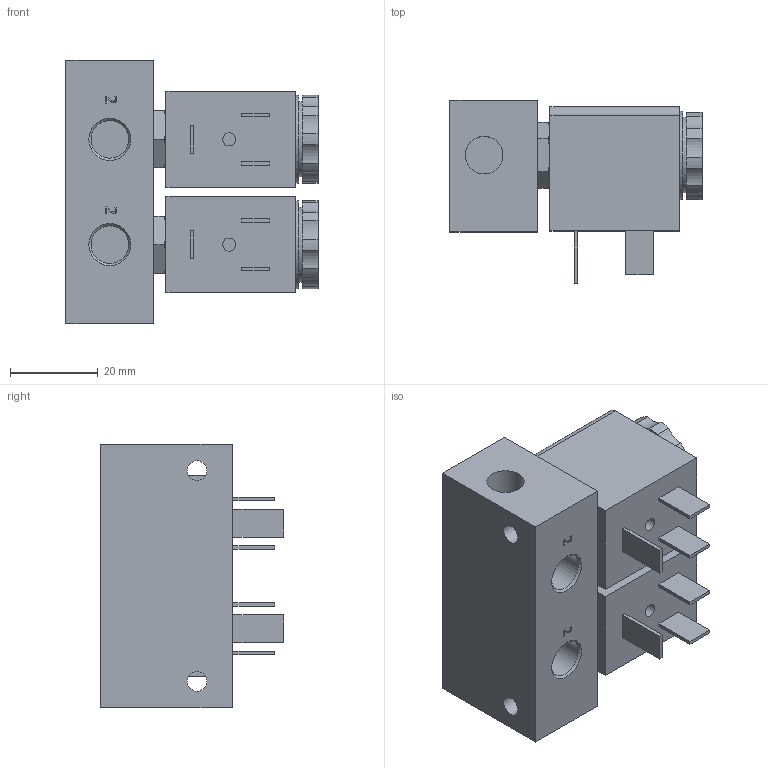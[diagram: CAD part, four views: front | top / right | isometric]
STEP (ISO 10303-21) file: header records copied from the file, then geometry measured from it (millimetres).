
FILE_DESCRIPTION (( 'STEP AP214' ), '1' );
FILE_NAME ('MS-18-310_2-HN-412_Airtec.step', '2018-12-14T07:34:48', ( '' ), ( '' ), 'SwSTEP 2.0', 'SolidWorks 2010', '' );
FILE_SCHEMA (( 'AUTOMOTIVE_DESIGN' ));
Length unit declared in the file: millimetre
Products named in the file (3): Volumenkörper4; Volumenkörper1; MS-18-310_2-HN-412_Airtec
Assembly tree (3 placements, depth 2):
  MS-18-310_2-HN-412_Airtec
    Volumenkörper1  x2
    Volumenkörper4
Bounding box: 57.45 x 41.7 x 60 mm (x, y, z)
Volume: 73704 mm3; surface area: 23729.8 mm2
Topology: 3 solids, 5 shells, 332 faces, 786 edges, 514 vertices
Faces by surface type: plane 148, cylinder 98, bspline 52, cone 28, torus 6
Full cylindrical faces by diameter (mm): 1.9 x2, 3 x2, 4.134 x2, 4.5 x2, 5 x2, 6.647 x2, 7.4 x2, 8 x2, 8.15 x2, 8.2 x2, 8.566 x4, 9.04 x4, 10.5 x2, 13.2 x2, 16.6 x2, 17.041 x2, 20.1 x2
Entity records: 11282 total; most frequent: CARTESIAN_POINT 2594, ORIENTED_EDGE 1308, DIRECTION 1250, EDGE_CURVE 654, AXIS2_PLACEMENT_3D 474, VERTEX_POINT 460, EDGE_LOOP 416, FACE_OUTER_BOUND 349
